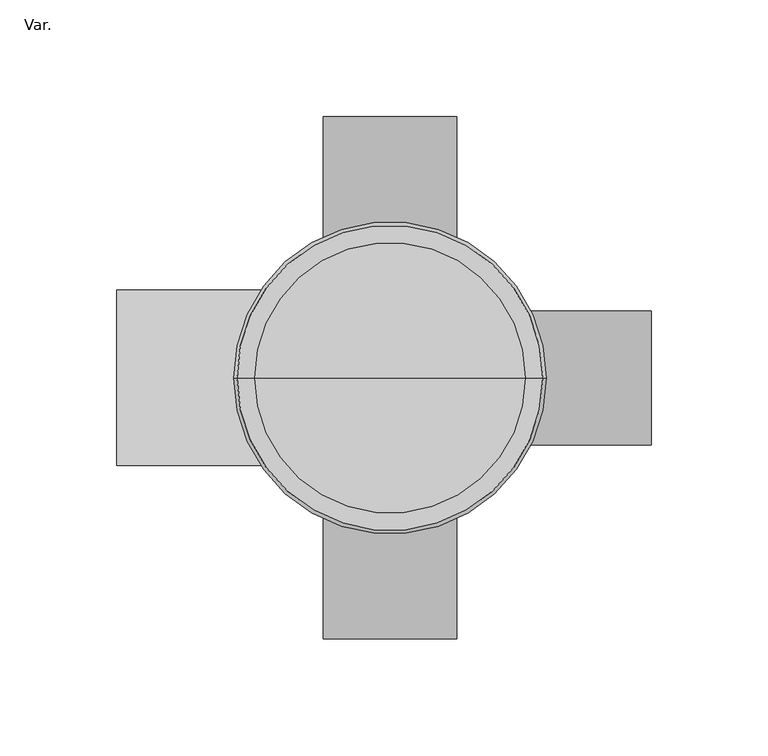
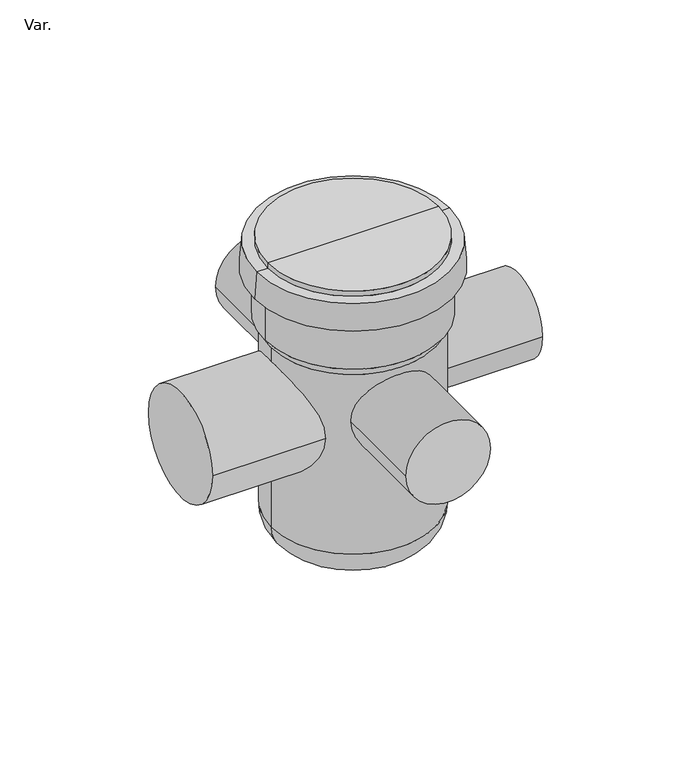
"""IFC4 building model written with IfcOpenShell, lengths in millimetres: pipe fitting geometry, NLRS_52_PIF_UN_HDPE floor gully weldable_Akatherm : Var.."""

from ifc_helpers import new_model, si_unit, point, frame, frame_2d, origin, origin_with_axes, place, context, project, spatial, polyline, circle_curve, ellipse_curve, trimmed, segment, composite_curve, outline, extrude, source, transform, mapped, element, save
from ifc_brep_helpers import plane_surface, cylinder_surface, revolved_surface, advanced_brep


def var_01cf09ba(model_context):
    return source(origin(), model_context, "Body", "SolidModel", [
        extrude(outline(composite_curve([segment(trimmed(circle_curve(frame_2d((0.0, 103.0)), 37.5), [point((37.5, 103.0))], [point((-37.5, 103.0))], False, "CARTESIAN"), True, "CONTINUOUS"), segment(trimmed(circle_curve(frame_2d((0.0, 103.0)), 37.5), [point((-37.5, 103.0))], [point((37.5, 103.0))], False, "CARTESIAN"), True, "CONTINUOUS")], self_intersect=False)), frame((-116.9, 0.0, 0.0), z_axis=(1.0, 0.0, 0.0), x_axis=(0.0, 1.0, 0.0)), (0.0, 0.0, 1.0), 116.9),
        extrude(outline(composite_curve([segment(trimmed(circle_curve(frame_2d((0.0, 117.0)), 28.65), [point((-28.65, 117.0))], [point((28.65, 117.0))], False, "CARTESIAN"), True, "CONTINUOUS"), segment(trimmed(circle_curve(frame_2d((0.0, 117.0)), 28.65), [point((28.65, 117.0))], [point((-28.65, 117.0))], False, "CARTESIAN"), True, "CONTINUOUS")], self_intersect=False)), frame((0.0, 0.0, 0.0), z_axis=(1.0, 0.0, 0.0), x_axis=(0.0, 1.0, 0.0)), (0.0, 0.0, 1.0), 111.8),
        extrude(outline(composite_curve([segment(trimmed(circle_curve(frame_2d((117.0, 0.0)), 28.65), [point((117.0, -28.65))], [point((117.0, 28.65))], False, "CARTESIAN"), True, "CONTINUOUS"), segment(trimmed(circle_curve(frame_2d((117.0, 0.0)), 28.65), [point((117.0, 28.65))], [point((117.0, -28.65))], False, "CARTESIAN"), True, "CONTINUOUS")], self_intersect=False)), frame((0.0, -111.8, 0.0), z_axis=(0.0, 1.0, 0.0), x_axis=(0.0, 0.0, 1.0)), (0.0, 0.0, 1.0), 111.8),
        extrude(outline(composite_curve([segment(trimmed(circle_curve(frame_2d((117.0, 0.0)), 28.65), [point((117.0, -28.65))], [point((117.0, 28.65))], False, "CARTESIAN"), True, "CONTINUOUS"), segment(trimmed(circle_curve(frame_2d((117.0, 0.0)), 28.65), [point((117.0, 28.65))], [point((117.0, -28.65))], False, "CARTESIAN"), True, "CONTINUOUS")], self_intersect=False)), frame((0.0, 0.0, 0.0), z_axis=(0.0, 1.0, 0.0), x_axis=(0.0, 0.0, 1.0)), (0.0, 0.0, 1.0), 111.8),
        advanced_brep(
        [(-55.5, 0.0, 22.0), (55.5, 0.0, 22.0), (33.5, 0.0, 0.0), (-33.5, 0.0, 0.0), (-55.5, 0.0, 150.6), (55.5, 0.0, 150.6), (0.0, 0.0, 0.0), (-59.65, 0.0, 157.4), (59.65, 0.0, 157.4), (-59.65, 0.0, 189.7), (59.65, 0.0, 189.7), (-66.85, 0.0, 189.7), (66.85, 0.0, 189.7), (-65.4, 0.0, 208.3), (65.4, 0.0, 208.3), (-57.9, 0.0, 208.3), (57.9, 0.0, 208.3), (-57.9, 0.0, 212.0), (57.9, 0.0, 212.0), (0.0, 0.0, 212.0)],
        [
            (0, 1, circle_curve(frame((0.0, 0.0, 22.0), z_axis=(0.0, 0.0, -1.0), x_axis=(1.0, 0.0, 0.0)), 55.5)),
            (1, 2, circle_curve(frame((33.5, 0.0, 22.0), z_axis=(0.0, 1.0, 0.0), x_axis=(1.0, 0.0, 0.0)), 22.0)),
            (2, 3, circle_curve(origin_with_axes(), 33.5)),
            (3, 0, circle_curve(frame((-33.5, 0.0, 22.0), z_axis=(0.0, 1.0, 0.0), x_axis=(-1.0, 0.0, 0.0)), 22.0)),
            (1, 0, circle_curve(frame((0.0, 0.0, 22.0), z_axis=(0.0, 0.0, -1.0), x_axis=(1.0, 0.0, 0.0)), 55.5)),
            (3, 2, circle_curve(origin_with_axes(), 33.5)),
            (4, 5, circle_curve(frame((0.0, 0.0, 150.6), z_axis=(0.0, 0.0, -1.0), x_axis=(1.0, 0.0, 0.0)), 55.5)),
            (5, 1),
            (0, 4),
            (5, 4, circle_curve(frame((0.0, 0.0, 150.6), z_axis=(0.0, 0.0, -1.0), x_axis=(1.0, 0.0, 0.0)), 55.5)),
            (2, 6),
            (6, 3),
            (7, 8, circle_curve(frame((0.0, 0.0, 157.4), z_axis=(0.0, 0.0, -1.0), x_axis=(1.0, 0.0, 0.0)), 59.65)),
            (8, 5),
            (4, 7),
            (8, 7, circle_curve(frame((0.0, 0.0, 157.4), z_axis=(0.0, 0.0, -1.0), x_axis=(1.0, 0.0, 0.0)), 59.65)),
            (9, 10, circle_curve(frame((0.0, 0.0, 189.7), z_axis=(0.0, 0.0, -1.0), x_axis=(1.0, 0.0, 0.0)), 59.65)),
            (10, 8),
            (7, 9),
            (10, 9, circle_curve(frame((0.0, 0.0, 189.7), z_axis=(0.0, 0.0, -1.0), x_axis=(1.0, 0.0, 0.0)), 59.65)),
            (11, 12, circle_curve(frame((0.0, 0.0, 189.7), z_axis=(0.0, 0.0, -1.0), x_axis=(1.0, 0.0, 0.0)), 66.85)),
            (12, 10),
            (9, 11),
            (12, 11, circle_curve(frame((0.0, 0.0, 189.7), z_axis=(0.0, 0.0, -1.0), x_axis=(1.0, 0.0, 0.0)), 66.85)),
            (13, 14, circle_curve(frame((0.0, 0.0, 208.3), z_axis=(0.0, 0.0, -1.0), x_axis=(1.0, 0.0, 0.0)), 65.4)),
            (14, 12),
            (11, 13),
            (14, 13, circle_curve(frame((0.0, 0.0, 208.3), z_axis=(0.0, 0.0, -1.0), x_axis=(1.0, 0.0, 0.0)), 65.4)),
            (15, 16, circle_curve(frame((0.0, 0.0, 208.3), z_axis=(0.0, 0.0, -1.0), x_axis=(1.0, 0.0, 0.0)), 57.9)),
            (16, 14),
            (13, 15),
            (16, 15, circle_curve(frame((0.0, 0.0, 208.3), z_axis=(0.0, 0.0, -1.0), x_axis=(1.0, 0.0, 0.0)), 57.9)),
            (17, 18, circle_curve(frame((0.0, 0.0, 212.0), z_axis=(0.0, 0.0, -1.0), x_axis=(1.0, 0.0, 0.0)), 57.9)),
            (18, 16),
            (15, 17),
            (18, 17, circle_curve(frame((0.0, 0.0, 212.0), z_axis=(0.0, 0.0, -1.0), x_axis=(1.0, 0.0, 0.0)), 57.9)),
            (19, 18),
            (17, 19),
        ],
        [
            revolved_surface(trimmed(ellipse_curve(frame((33.5, 0.0, 22.0), z_axis=(0.0, -1.0, 0.0), x_axis=(1.0, 0.0, 0.0)), 22.0, 22.0), [point((33.5, 0.0, 0.0))], [point((55.5, 0.0, 22.0))], True, "CARTESIAN"), (0.0, 0.0, 202.868368), (0.0, 0.0, 1.0)),
            cylinder_surface(frame((0.0, 0.0, 202.868368), z_axis=(0.0, 0.0, 1.0), x_axis=(1.0, 0.0, 0.0)), 55.5),
            plane_surface(frame((0.0, 0.0, 0.0), z_axis=(0.0, 0.0, -1.0), x_axis=(1.0, 0.0, 0.0))),
            revolved_surface(polyline([(55.5, 0.0, 150.6), (59.65, 0.0, 157.4)]), (0.0, 0.0, 202.868368), (0.0, 0.0, 1.0)),
            cylinder_surface(frame((0.0, 0.0, 202.868368), z_axis=(0.0, 0.0, 1.0), x_axis=(1.0, 0.0, 0.0)), 59.65),
            plane_surface(frame((0.0, 0.0, 189.7), z_axis=(0.0, 0.0, -1.0), x_axis=(1.0, 0.0, 0.0))),
            revolved_surface(polyline([(66.85, 0.0, 189.7), (65.4, 0.0, 208.3)]), (0.0, 0.0, 202.868368), (0.0, 0.0, 1.0)),
            plane_surface(frame((0.0, 0.0, 208.3), z_axis=(0.0, 0.0, 1.0), x_axis=(1.0, 0.0, 0.0))),
            cylinder_surface(frame((0.0, 0.0, 202.868368), z_axis=(0.0, 0.0, 1.0), x_axis=(1.0, 0.0, 0.0)), 57.9),
            plane_surface(frame((0.0, 0.0, 212.0), z_axis=(0.0, 0.0, 1.0), x_axis=(1.0, 0.0, 0.0))),
        ],
        [
            (0, [[1, 2, 3, 4]]),
            (0, [[5, -4, 6, -2]]),
            (1, [[7, 8, -1, 9]]),
            (1, [[10, -9, -5, -8]]),
            (2, [[-3, 11, 12]]),
            (2, [[-6, -12, -11]]),
            (3, [[13, 14, -7, 15]]),
            (3, [[16, -15, -10, -14]]),
            (4, [[17, 18, -13, 19]]),
            (4, [[20, -19, -16, -18]]),
            (5, [[21, 22, -17, 23]]),
            (5, [[24, -23, -20, -22]]),
            (6, [[25, 26, -21, 27]]),
            (6, [[28, -27, -24, -26]]),
            (7, [[29, 30, -25, 31]]),
            (7, [[32, -31, -28, -30]]),
            (8, [[33, 34, -29, 35]]),
            (8, [[36, -35, -32, -34]]),
            (9, [[37, -33, 38]]),
            (9, [[-38, -36, -37]]),
        ],
    ),
    ])


if __name__ == "__main__":
    model = new_model("IFC4")
    model_context = context("Model", 3, world=origin())
    ifc_project = project(units=[si_unit("LENGTHUNIT", "METRE", prefix="MILLI")], contexts=[model_context])
    site = spatial("IfcSite", under=ifc_project)
    building = spatial("IfcBuilding", under=site)
    placement = place(None, origin())
    var_shape = var_01cf09ba(model_context)
    element("IfcPipeFitting", 1, ObjectType="NLRS_52_PIF_UN_HDPE floor gully weldable_Akatherm : Var.", at=placement, inside=building, context=model_context, shape_type="MappedRepresentation", body=[
        mapped(var_shape, transform((0.0, 0.0, 0.0), x_axis=(1.0, 0.0, 0.0), y_axis=(0.0, 1.0, 0.0), z_axis=(0.0, 0.0, 1.0))),
    ])
    save(model, "model.ifc")
